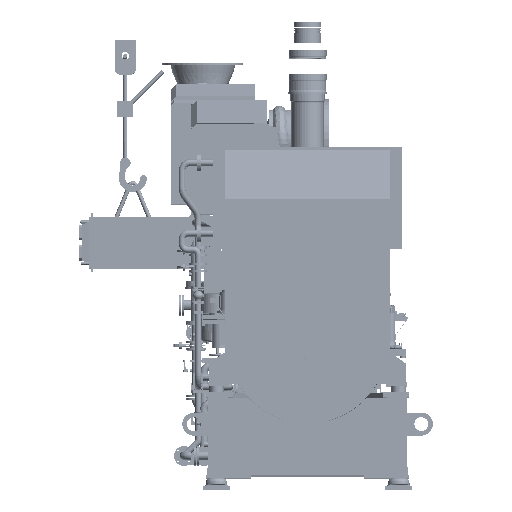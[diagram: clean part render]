
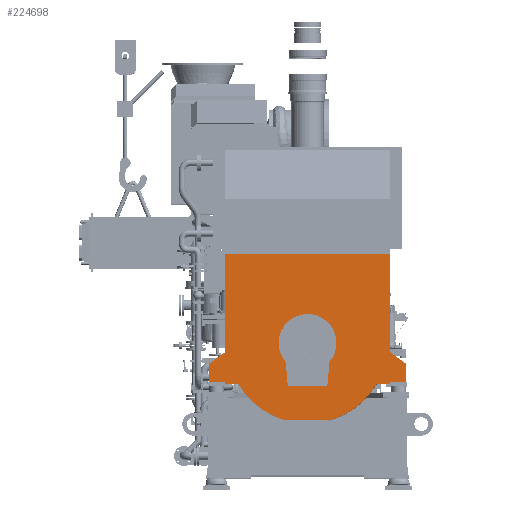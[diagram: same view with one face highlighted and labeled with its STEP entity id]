
A CAD part, top view. The second image highlights one B-rep face of the part: STEP entity #224698.
In plain terms, the highlighted planar face has unit normal (0, 0, 1).
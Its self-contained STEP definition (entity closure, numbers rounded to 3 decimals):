
#222178=DIRECTION('',(0.,-1.,0.));
#222179=VECTOR('',#222178,920.745);
#222180=CARTESIAN_POINT('',(-771.,834.,3440.));
#222181=LINE('',#222180,#222179);
#222198=DIRECTION('',(0.,-1.,0.));
#222199=VECTOR('',#222198,15.);
#222200=CARTESIAN_POINT('',(-771.,-365.,3440.));
#222201=LINE('',#222200,#222199);
#222278=DIRECTION('',(-0.809,0.588,0.));
#222279=VECTOR('',#222278,184.174);
#222280=CARTESIAN_POINT('',(920.,-195.,3440.));
#222281=LINE('',#222280,#222279);
#222282=DIRECTION('',(0.,1.,0.));
#222283=VECTOR('',#222282,170.);
#222284=CARTESIAN_POINT('',(920.,-365.,3440.));
#222285=LINE('',#222284,#222283);
#222286=DIRECTION('',(-1.,0.,0.));
#222287=VECTOR('',#222286,149.);
#222288=CARTESIAN_POINT('',(920.,-365.,3440.));
#222289=LINE('',#222288,#222287);
#222290=CARTESIAN_POINT('',(0.,0.,3440.));
#222291=DIRECTION('',(0.,0.,-1.));
#222292=DIRECTION('',(0.862,-0.507,0.));
#222293=AXIS2_PLACEMENT_3D('',#222290,#222291,#222292);
#222295=DIRECTION('',(-1.,0.,0.));
#222296=VECTOR('',#222295,452.88);
#222297=CARTESIAN_POINT('',(226.44,-715.,3440.));
#222298=LINE('',#222297,#222296);
#222299=CARTESIAN_POINT('',(0.,0.,3440.));
#222300=DIRECTION('',(0.,0.,-1.));
#222301=DIRECTION('',(-0.302,-0.953,0.));
#222302=AXIS2_PLACEMENT_3D('',#222299,#222300,#222301);
#222304=DIRECTION('',(-1.,0.,0.));
#222305=VECTOR('',#222304,149.);
#222306=CARTESIAN_POINT('',(-771.,-365.,3440.));
#222307=LINE('',#222306,#222305);
#222308=DIRECTION('',(0.,1.,0.));
#222309=VECTOR('',#222308,170.);
#222310=CARTESIAN_POINT('',(-920.,-365.,3440.));
#222311=LINE('',#222310,#222309);
#222312=DIRECTION('',(0.809,0.588,0.));
#222313=VECTOR('',#222312,184.174);
#222314=CARTESIAN_POINT('',(-920.,-195.,3440.));
#222315=LINE('',#222314,#222313);
#222316=DIRECTION('',(1.,0.,0.));
#222317=VECTOR('',#222316,1542.);
#222318=CARTESIAN_POINT('',(-771.,834.,3440.));
#222319=LINE('',#222318,#222317);
#222320=DIRECTION('',(0.088,-0.996,0.));
#222321=VECTOR('',#222320,224.198);
#222322=CARTESIAN_POINT('',(-204.176,-176.669,3440.));
#222323=LINE('',#222322,#222321);
#222324=DIRECTION('',(1.,0.,0.));
#222325=VECTOR('',#222324,368.941);
#222326=CARTESIAN_POINT('',(-184.471,-400.,3440.));
#222327=LINE('',#222326,#222325);
#222328=DIRECTION('',(0.088,0.996,0.));
#222329=VECTOR('',#222328,224.198);
#222330=CARTESIAN_POINT('',(184.471,-400.,3440.));
#222331=LINE('',#222330,#222329);
#222332=CARTESIAN_POINT('',(0.,0.,3440.));
#222333=DIRECTION('',(0.,0.,1.));
#222334=DIRECTION('',(0.756,-0.654,0.));
#222335=AXIS2_PLACEMENT_3D('',#222332,#222333,#222334);
#222349=DIRECTION('',(0.,-1.,0.));
#222350=VECTOR('',#222349,920.745);
#222351=CARTESIAN_POINT('',(771.,834.,3440.));
#222352=LINE('',#222351,#222350);
#222465=DIRECTION('',(0.,-1.,0.));
#222466=VECTOR('',#222465,15.);
#222467=CARTESIAN_POINT('',(771.,-365.,3440.));
#222468=LINE('',#222467,#222466);
#222549=DIRECTION('',(1.,0.,0.));
#222550=VECTOR('',#222549,124.393);
#222551=CARTESIAN_POINT('',(-771.,-380.,3440.));
#222552=LINE('',#222551,#222550);
#222589=DIRECTION('',(1.,0.,0.));
#222590=VECTOR('',#222589,124.393);
#222591=CARTESIAN_POINT('',(646.607,-380.,3440.));
#222592=LINE('',#222591,#222590);
#223906=CARTESIAN_POINT('',(-771.,834.,3440.));
#223907=VERTEX_POINT('',#223906);
#223922=CARTESIAN_POINT('',(771.,834.,3440.));
#223923=VERTEX_POINT('',#223922);
#223952=CARTESIAN_POINT('',(226.44,-715.,3440.));
#223953=CARTESIAN_POINT('',(-226.44,-715.,3440.));
#223954=VERTEX_POINT('',#223952);
#223955=VERTEX_POINT('',#223953);
#223956=CARTESIAN_POINT('',(646.607,-380.,3440.));
#223958=VERTEX_POINT('',#223956);
#223960=CARTESIAN_POINT('',(-646.607,-380.,3440.));
#223962=VERTEX_POINT('',#223960);
#223964=CARTESIAN_POINT('',(-771.,-380.,3440.));
#223965=VERTEX_POINT('',#223964);
#223966=CARTESIAN_POINT('',(771.,-380.,3440.));
#223967=VERTEX_POINT('',#223966);
#224100=CARTESIAN_POINT('',(-920.,-365.,3440.));
#224101=CARTESIAN_POINT('',(-920.,-195.,3440.));
#224102=VERTEX_POINT('',#224100);
#224103=VERTEX_POINT('',#224101);
#224106=CARTESIAN_POINT('',(-771.,-86.745,3440.));
#224108=VERTEX_POINT('',#224106);
#224110=CARTESIAN_POINT('',(-771.,-365.,3440.));
#224111=VERTEX_POINT('',#224110);
#224136=CARTESIAN_POINT('',(920.,-365.,3440.));
#224137=CARTESIAN_POINT('',(920.,-195.,3440.));
#224138=VERTEX_POINT('',#224136);
#224139=VERTEX_POINT('',#224137);
#224144=CARTESIAN_POINT('',(771.,-365.,3440.));
#224145=VERTEX_POINT('',#224144);
#224146=CARTESIAN_POINT('',(771.,-86.745,3440.));
#224147=VERTEX_POINT('',#224146);
#224300=CARTESIAN_POINT('',(-204.176,-176.669,3440.));
#224301=CARTESIAN_POINT('',(-184.471,-400.,3440.));
#224302=VERTEX_POINT('',#224300);
#224303=VERTEX_POINT('',#224301);
#224304=CARTESIAN_POINT('',(184.471,-400.,3440.));
#224305=VERTEX_POINT('',#224304);
#224306=CARTESIAN_POINT('',(204.176,-176.669,3440.));
#224307=VERTEX_POINT('',#224306);
#224652=CARTESIAN_POINT('',(-771.,834.,3440.));
#224653=DIRECTION('',(0.,0.,1.));
#224654=DIRECTION('',(0.,-1.,0.));
#224655=AXIS2_PLACEMENT_3D('',#224652,#224653,#224654);
#224656=PLANE('',#224655);
#224658=ORIENTED_EDGE('',*,*,#224657,.T.);
#224660=ORIENTED_EDGE('',*,*,#224659,.F.);
#224662=ORIENTED_EDGE('',*,*,#224661,.F.);
#224664=ORIENTED_EDGE('',*,*,#224663,.T.);
#224666=ORIENTED_EDGE('',*,*,#224665,.T.);
#224668=ORIENTED_EDGE('',*,*,#224667,.F.);
#224670=ORIENTED_EDGE('',*,*,#224669,.T.);
#224672=ORIENTED_EDGE('',*,*,#224671,.T.);
#224674=ORIENTED_EDGE('',*,*,#224673,.T.);
#224676=ORIENTED_EDGE('',*,*,#224675,.F.);
#224677=ORIENTED_EDGE('',*,*,#224555,.F.);
#224679=ORIENTED_EDGE('',*,*,#224678,.T.);
#224681=ORIENTED_EDGE('',*,*,#224680,.T.);
#224682=ORIENTED_EDGE('',*,*,#224644,.T.);
#224683=ORIENTED_EDGE('',*,*,#224527,.F.);
#224685=ORIENTED_EDGE('',*,*,#224684,.T.);
#224686=EDGE_LOOP('',(#224658,#224660,#224662,#224664,#224666,#224668,#224670,
#224672,#224674,#224676,#224677,#224679,#224681,#224682,#224683,#224685));
#224687=FACE_OUTER_BOUND('',#224686,.F.);
#224689=ORIENTED_EDGE('',*,*,#224688,.T.);
#224691=ORIENTED_EDGE('',*,*,#224690,.T.);
#224693=ORIENTED_EDGE('',*,*,#224692,.T.);
#224695=ORIENTED_EDGE('',*,*,#224694,.T.);
#224696=EDGE_LOOP('',(#224689,#224691,#224693,#224695));
#224697=FACE_BOUND('',#224696,.F.);
#224698=ADVANCED_FACE('',(#224687,#224697),#224656,.T.);
#222294=CIRCLE('',#222293,750.);
#222303=CIRCLE('',#222302,750.);
#222336=CIRCLE('',#222335,270.);
#224527=EDGE_CURVE('',#223907,#224108,#222181,.T.);
#224555=EDGE_CURVE('',#224111,#223965,#222201,.T.);
#224644=EDGE_CURVE('',#224103,#224108,#222315,.T.);
#224657=EDGE_CURVE('',#223923,#224147,#222352,.T.);
#224659=EDGE_CURVE('',#224139,#224147,#222281,.T.);
#224661=EDGE_CURVE('',#224138,#224139,#222285,.T.);
#224663=EDGE_CURVE('',#224138,#224145,#222289,.T.);
#224665=EDGE_CURVE('',#224145,#223967,#222468,.T.);
#224667=EDGE_CURVE('',#223958,#223967,#222592,.T.);
#224669=EDGE_CURVE('',#223958,#223954,#222294,.T.);
#224671=EDGE_CURVE('',#223954,#223955,#222298,.T.);
#224673=EDGE_CURVE('',#223955,#223962,#222303,.T.);
#224675=EDGE_CURVE('',#223965,#223962,#222552,.T.);
#224678=EDGE_CURVE('',#224111,#224102,#222307,.T.);
#224680=EDGE_CURVE('',#224102,#224103,#222311,.T.);
#224684=EDGE_CURVE('',#223907,#223923,#222319,.T.);
#224688=EDGE_CURVE('',#224302,#224303,#222323,.T.);
#224690=EDGE_CURVE('',#224303,#224305,#222327,.T.);
#224692=EDGE_CURVE('',#224305,#224307,#222331,.T.);
#224694=EDGE_CURVE('',#224307,#224302,#222336,.T.);
